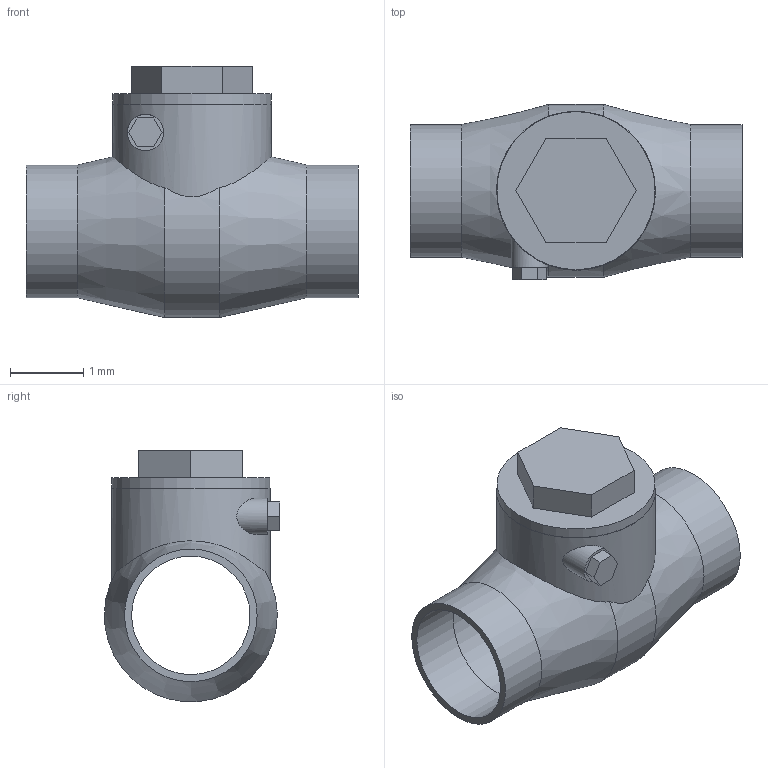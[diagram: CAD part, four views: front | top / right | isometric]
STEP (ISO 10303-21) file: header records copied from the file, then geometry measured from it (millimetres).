
FILE_DESCRIPTION(('Open CASCADE Model'),'2;1');
FILE_NAME('Open CASCADE Shape Model','2022-05-12T13:59:20',('Author'),( 'Open CASCADE'),'Open CASCADE STEP processor 7.3','Open CASCADE 7.3' ,'Unknown');
FILE_SCHEMA(('AUTOMOTIVE_DESIGN { 1 0 10303 214 1 1 1 1 }'));
Length unit declared in the file: millimetre
Products named in the file (1): Open CASCADE STEP translator 7.3 1
Bounding box: 4.53 x 2.39 x 3.43 mm (x, y, z)
Volume: 8.8 mm3; surface area: 64.5 mm2
Topology: 1 solids, 1 shells, 32 faces, 74 edges, 50 vertices
Faces by surface type: plane 21, cylinder 9, cone 2
Full cylindrical faces by diameter (mm): 0.495 x1, 1.615 x2, 1.733 x1, 1.81 x2, 2.157 x1, 2.165 x1
Entity records: 2848 total; most frequent: CARTESIAN_POINT 1346, DIRECTION 269, LINE 154, VECTOR 154, ORIENTED_EDGE 148, PCURVE 148, DEFINITIONAL_REPRESENTATION 148, EDGE_CURVE 74
